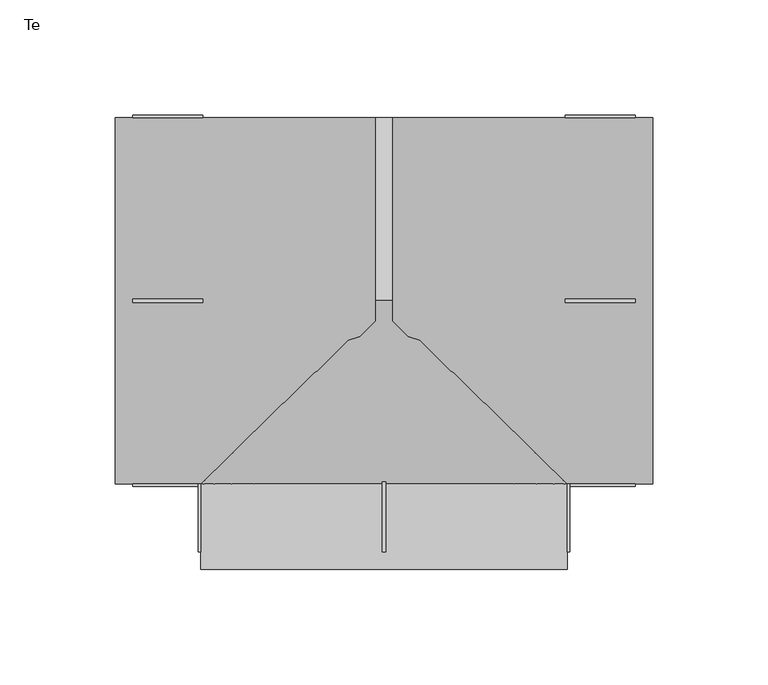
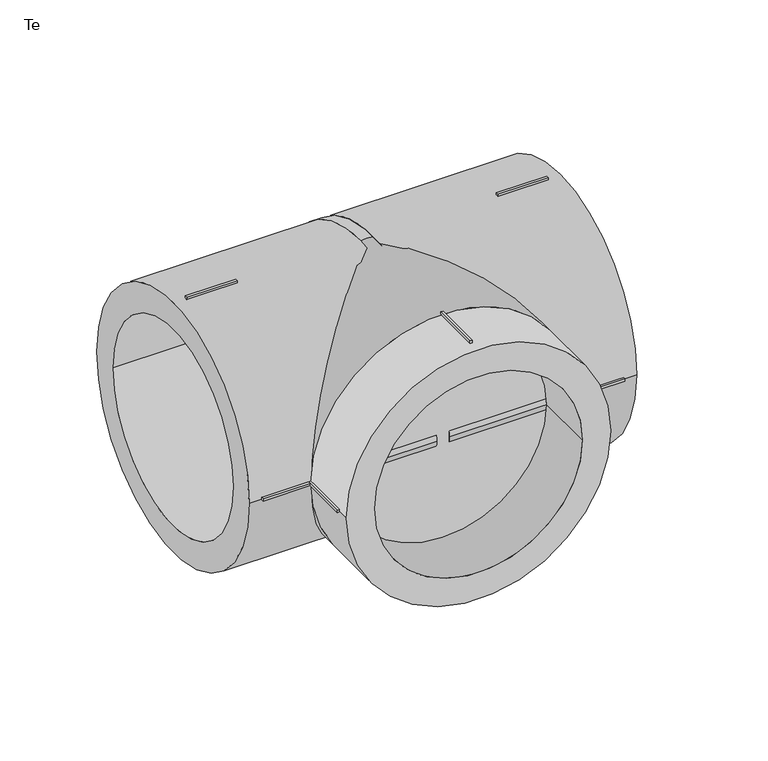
"""IFC4 building model written with IfcOpenShell, lengths in millimetres: pipe fitting geometry, EGB_VASEN_ PPR_Te WXR300_Te reducida WXR310 : Te."""

from ifc_helpers import new_model, si_unit, point, frame, origin, origin_2d, place, context, project, spatial, polyline, circle_curve, trimmed, segment, composite_curve, outline, extrude, source, transform, mapped, element, save


def te_73c6b3c5(model_context):
    return source(origin(), model_context, "Body", "SweptSolid", [
        extrude(outline(polyline([(-0.75, -78.5), (0.75, -78.5), (0.75, -108.9), (-0.75, -108.9), (-0.75, -78.5)])), frame((0.0, 0.0, 78.5), z_axis=(0.0, 0.0, 1.0), x_axis=(1.0, 0.0, 0.0)), (0.0, 0.0, 1.0), 2.0),
        extrude(outline(polyline([(-0.75, -78.5), (0.75, -78.5), (0.75, -108.9), (-0.75, -108.9), (-0.75, -78.5)])), frame((0.0, 0.0, -80.5), z_axis=(0.0, 0.0, 1.0), x_axis=(1.0, 0.0, 0.0)), (0.0, 0.0, 1.0), 2.0),
        extrude(outline(polyline([(78.5, -78.5), (80.5, -78.5), (80.5, -108.9), (78.5, -108.9), (78.5, -78.5)])), frame((0.0, 0.0, -0.75), z_axis=(0.0, 0.0, 1.0), x_axis=(1.0, 0.0, 0.0)), (0.0, 0.0, 1.0), 1.5),
        extrude(outline(polyline([(-80.5, -78.5), (-78.5, -78.5), (-78.5, -108.9), (-80.5, -108.9), (-80.5, -78.5)])), frame((0.0, 0.0, -0.75), z_axis=(0.0, 0.0, 1.0), x_axis=(1.0, 0.0, 0.0)), (0.0, 0.0, 1.0), 1.5),
        extrude(outline(polyline([(78.5, -0.75), (78.5, 0.75), (108.9, 0.75), (108.9, -0.75), (78.5, -0.75)])), frame((0.0, 0.0, 78.5), z_axis=(0.0, 0.0, 1.0), x_axis=(1.0, 0.0, 0.0)), (0.0, 0.0, 1.0), 2.0),
        extrude(outline(polyline([(78.5, -0.75), (78.5, 0.75), (108.9, 0.75), (108.9, -0.75), (78.5, -0.75)])), frame((0.0, 0.0, -80.5), z_axis=(0.0, 0.0, 1.0), x_axis=(1.0, 0.0, 0.0)), (0.0, 0.0, 1.0), 2.0),
        extrude(outline(polyline([(78.5, 78.5), (78.5, 80.5), (108.9, 80.5), (108.9, 78.5), (78.5, 78.5)])), frame((0.0, 0.0, -0.75), z_axis=(0.0, 0.0, 1.0), x_axis=(1.0, 0.0, 0.0)), (0.0, 0.0, 1.0), 1.5),
        extrude(outline(polyline([(78.5, -80.5), (78.5, -78.5), (108.9, -78.5), (108.9, -80.5), (78.5, -80.5)])), frame((0.0, 0.0, -0.75), z_axis=(0.0, 0.0, 1.0), x_axis=(1.0, 0.0, 0.0)), (0.0, 0.0, 1.0), 1.5),
        extrude(outline(polyline([(-78.5, 0.75), (-78.5, -0.75), (-108.9, -0.75), (-108.9, 0.75), (-78.5, 0.75)])), frame((0.0, 0.0, 78.5), z_axis=(0.0, 0.0, 1.0), x_axis=(1.0, 0.0, 0.0)), (0.0, 0.0, 1.0), 2.0),
        extrude(outline(polyline([(-78.5, 0.75), (-78.5, -0.75), (-108.9, -0.75), (-108.9, 0.75), (-78.5, 0.75)])), frame((0.0, 0.0, -80.5), z_axis=(0.0, 0.0, 1.0), x_axis=(1.0, 0.0, 0.0)), (0.0, 0.0, 1.0), 2.0),
        extrude(outline(polyline([(-78.5, 80.5), (-78.5, 78.5), (-108.9, 78.5), (-108.9, 80.5), (-78.5, 80.5)])), frame((0.0, 0.0, -0.75), z_axis=(0.0, 0.0, 1.0), x_axis=(1.0, 0.0, 0.0)), (0.0, 0.0, 1.0), 1.5),
        extrude(outline(polyline([(-78.5, -78.5), (-78.5, -80.5), (-108.9, -80.5), (-108.9, -78.5), (-78.5, -78.5)])), frame((0.0, 0.0, -0.75), z_axis=(0.0, 0.0, 1.0), x_axis=(1.0, 0.0, 0.0)), (0.0, 0.0, 1.0), 1.5),
        extrude(outline(composite_curve([segment(trimmed(circle_curve(origin_2d(), 79.5), [point((0.0, 79.5))], [point((0.0, -79.5))], False, "CARTESIAN"), True, "CONTINUOUS"), segment(trimmed(circle_curve(origin_2d(), 79.5), [point((0.0, -79.5))], [point((0.0, 79.5))], False, "CARTESIAN"), True, "CONTINUOUS")], self_intersect=False), holes=[composite_curve([segment(trimmed(circle_curve(origin_2d(), 62.5), [point((0.0, 62.5))], [point((0.0, -62.5))], True, "CARTESIAN"), True, "CONTINUOUS"), segment(trimmed(circle_curve(origin_2d(), 62.5), [point((0.0, -62.5))], [point((0.0, 62.5))], True, "CARTESIAN"), True, "CONTINUOUS")], self_intersect=False)]), frame((0.0, -116.5, 0.0), z_axis=(0.0, 1.0, 0.0), x_axis=(0.0, 0.0, 1.0)), (0.0, 0.0, 1.0), 37.0),
        extrude(outline(composite_curve([segment(trimmed(circle_curve(origin_2d(), 79.5), [point((-79.5, 0.0))], [point((79.5, 0.0))], False, "CARTESIAN"), True, "CONTINUOUS"), segment(trimmed(circle_curve(origin_2d(), 79.5), [point((79.5, 0.0))], [point((-79.5, 0.0))], False, "CARTESIAN"), True, "CONTINUOUS")], self_intersect=False), holes=[composite_curve([segment(trimmed(circle_curve(origin_2d(), 62.5), [point((-62.5, 0.0))], [point((62.5, 0.0))], True, "CARTESIAN"), True, "CONTINUOUS"), segment(trimmed(circle_curve(origin_2d(), 62.5), [point((62.5, 0.0))], [point((-62.5, 0.0))], True, "CARTESIAN"), True, "CONTINUOUS")], self_intersect=False)]), frame((3.76, 0.0, 0.0), z_axis=(1.0, 0.0, 0.0), x_axis=(0.0, 1.0, 0.0)), (0.0, 0.0, 1.0), 112.74),
        extrude(outline(composite_curve([segment(trimmed(circle_curve(origin_2d(), 79.5), [point((-79.5, 0.0))], [point((79.5, 0.0))], False, "CARTESIAN"), True, "CONTINUOUS"), segment(trimmed(circle_curve(origin_2d(), 79.5), [point((79.5, 0.0))], [point((-79.5, 0.0))], False, "CARTESIAN"), True, "CONTINUOUS")], self_intersect=False), holes=[composite_curve([segment(trimmed(circle_curve(origin_2d(), 62.5), [point((-62.5, 0.0))], [point((62.5, 0.0))], True, "CARTESIAN"), True, "CONTINUOUS"), segment(trimmed(circle_curve(origin_2d(), 62.5), [point((62.5, 0.0))], [point((-62.5, 0.0))], True, "CARTESIAN"), True, "CONTINUOUS")], self_intersect=False)]), frame((-116.5, 0.0, 0.0), z_axis=(1.0, 0.0, 0.0), x_axis=(0.0, 1.0, 0.0)), (0.0, 0.0, 1.0), 112.74),
        extrude(outline(composite_curve([segment(trimmed(circle_curve(origin_2d(), 79.5), [point((0.0, 79.5))], [point((0.0, -79.5))], False, "CARTESIAN"), True, "CONTINUOUS"), segment(trimmed(circle_curve(origin_2d(), 79.5), [point((0.0, -79.5))], [point((0.0, 79.5))], False, "CARTESIAN"), True, "CONTINUOUS")], self_intersect=False)), frame((0.0, -79.5, 0.0), z_axis=(0.0, 1.0, 0.0), x_axis=(0.0, 0.0, 1.0)), (0.0, 0.0, 1.0), 79.5),
        extrude(outline(composite_curve([segment(trimmed(circle_curve(origin_2d(), 79.5), [point((-79.5, 0.0))], [point((79.5, 0.0))], False, "CARTESIAN"), True, "CONTINUOUS"), segment(trimmed(circle_curve(origin_2d(), 79.5), [point((79.5, 0.0))], [point((-79.5, 0.0))], False, "CARTESIAN"), True, "CONTINUOUS")], self_intersect=False)), frame((-3.76, 0.0, 0.0), z_axis=(1.0, 0.0, 0.0), x_axis=(0.0, 1.0, 0.0)), (0.0, 0.0, 1.0), 7.52),
    ])


if __name__ == "__main__":
    model = new_model("IFC4")
    model_context = context("Model", 3, world=origin())
    ifc_project = project(units=[si_unit("LENGTHUNIT", "METRE", prefix="MILLI")], contexts=[model_context])
    site = spatial("IfcSite", under=ifc_project)
    building = spatial("IfcBuilding", under=site)
    placement = place(None, origin())
    te_shape = te_73c6b3c5(model_context)
    element("IfcPipeFitting", 1, ObjectType="EGB_VASEN_ PPR_Te WXR300_Te reducida WXR310 : Te", at=placement, inside=building, context=model_context, shape_type="MappedRepresentation", body=[
        mapped(te_shape, transform((0.0, 0.0, 0.0), x_axis=(1.0, 0.0, 0.0), y_axis=(0.0, 1.0, 0.0), z_axis=(0.0, 0.0, 1.0))),
    ])
    save(model, "model.ifc")
